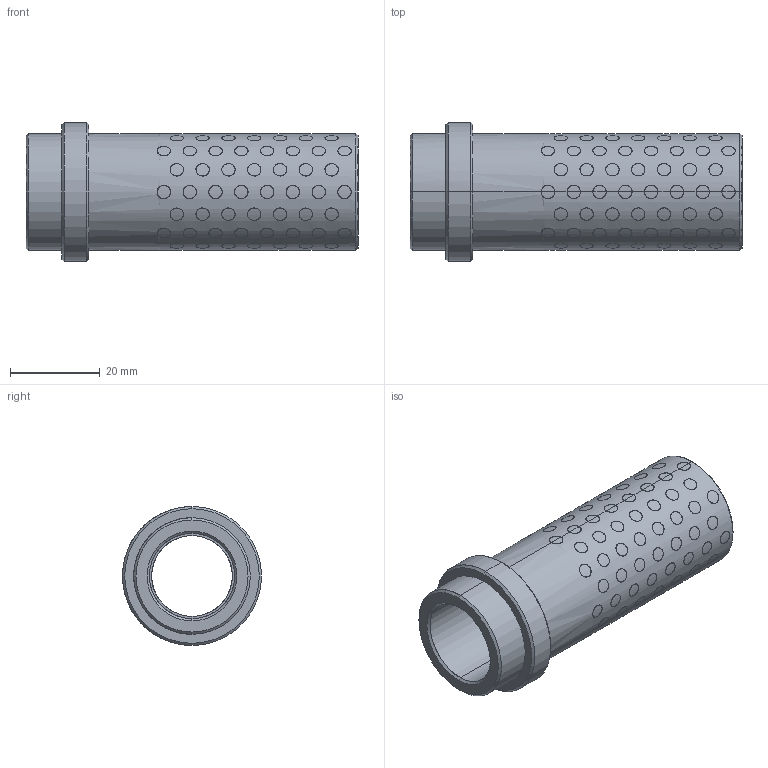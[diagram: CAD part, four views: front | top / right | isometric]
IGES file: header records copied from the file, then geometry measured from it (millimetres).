
Start section: START RECORD GO HERE.
Global section: file name: G31218066.igs; native system: DASSAULT SYSTEMES CATIA V5 R20 - www.3ds.com; preprocessor: CATIA Version 5 Release 20 ; author: r.borello; organization: CFTORINO; date: 20190624.121723; units: millimetre
Bounding box: 74 x 31 x 31 mm (x, y, z)
Surface area: 20227.8 mm2 (no closed solid volume)
Topology: 0 solids, 0 shells, 779 faces, 3372 edges, 3372 vertices
Faces by surface type: revolution 774, plane 5
